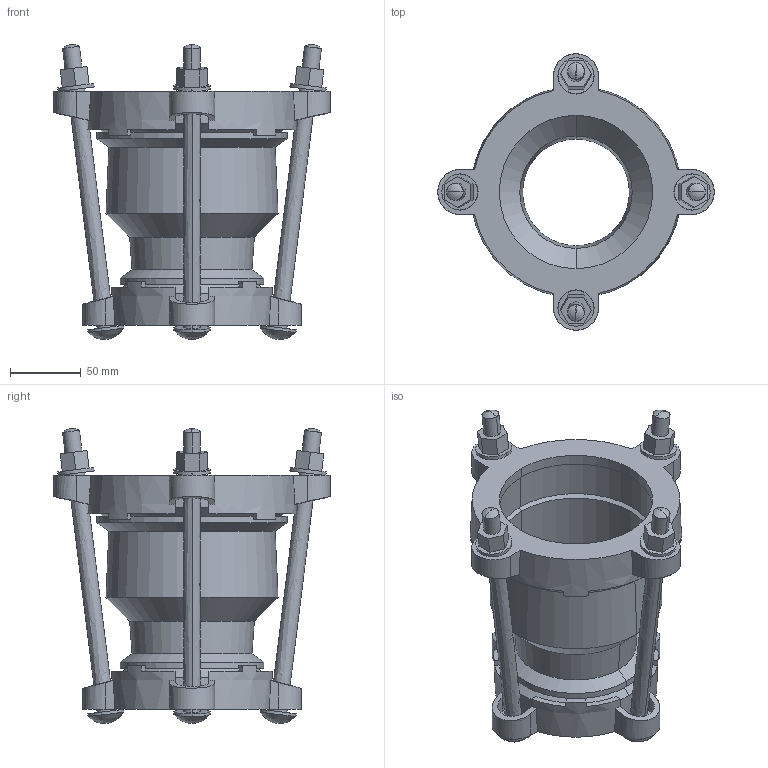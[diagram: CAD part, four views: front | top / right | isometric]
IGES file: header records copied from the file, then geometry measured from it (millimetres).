
Start section:  PTC IGES file: stepped_maxifit_74-85.igs
Global section: file name: stepped_maxifit_74-85.igs; native system: Creo Parametric by PTC Inc.; preprocessor: 2016130; author: MReader; organization: Unknown; date: 20181010.092718; units: millimetre
Bounding box: 195.5 x 195.5 x 208.59 mm (x, y, z)
Surface area: 217235.4 mm2 (no closed solid volume)
Topology: 0 solids, 0 shells, 282 faces, 1448 edges, 1432 vertices
Faces by surface type: revolution 160, bspline 122
